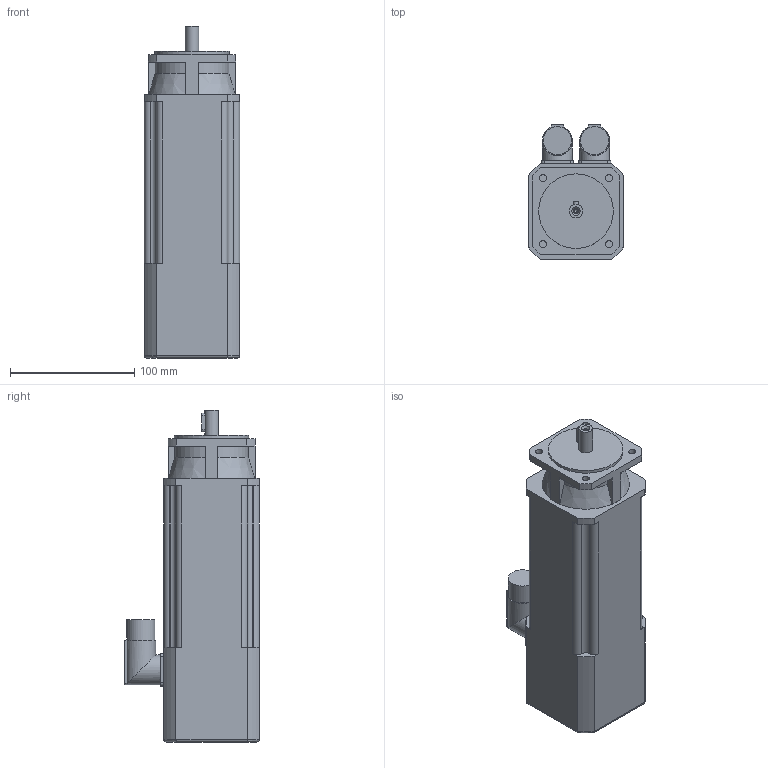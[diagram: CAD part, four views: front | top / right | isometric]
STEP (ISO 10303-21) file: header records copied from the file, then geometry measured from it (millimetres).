
FILE_DESCRIPTION(/* description */ (''),/* implementation_level */ '2;1');
FILE_NAME(/* name */ '\\Lafnas01\disegni\Archivi Lafert\3D\CAD 3D\MODELLI\Assiemi clienti\Serad\Modelli 3D Serad\B36I\Encoder\Enc With Brake\B36E2Ixx6BRx2033.ipt.stp',/* time_stamp */ '2015-09-07T10:48:55+02:00',/* author */ ('Pastrello Ylenia'),/* organization */ (''),/* preprocessor_version */ 'ST-DEVELOPER v15.6',/* originating_system */ 'Autodesk Inventor 2015',/* authorisation */ '');
FILE_SCHEMA (('AUTOMOTIVE_DESIGN { 1 0 10303 214 3 1 1 }'));
Length unit declared in the file: millimetre
Products named in the file (1): B36E2Ixx6BRx2033
Bounding box: 77 x 108.5 x 267 mm (x, y, z)
Volume: 1366858.8 mm3; surface area: 93150.7 mm2
Topology: 1 solids, 1 shells, 135 faces, 364 edges, 240 vertices
Faces by surface type: plane 64, cylinder 56, cone 11, torus 4
Full cylindrical faces by diameter (mm): 3.242 x1, 4.3 x1, 5.8 x4, 11 x1, 22.7 x2, 24 x2, 60 x1
Entity records: 4274 total; most frequent: CARTESIAN_POINT 876, DIRECTION 712, ORIENTED_EDGE 686, EDGE_CURVE 343, AXIS2_PLACEMENT_3D 255, VERTEX_POINT 235, LINE 202, VECTOR 202
